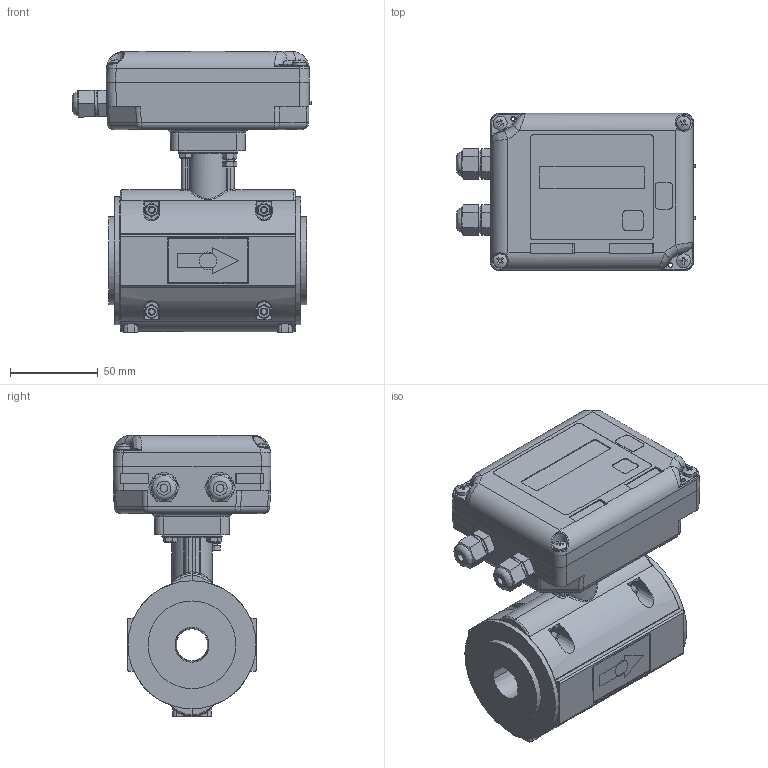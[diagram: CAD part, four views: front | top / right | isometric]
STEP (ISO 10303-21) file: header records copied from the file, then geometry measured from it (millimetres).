
FILE_DESCRIPTION(('STEP AP242'), '1');
FILE_NAME('1_ØÊÑÄ.407212.032-003 Ðàñõîäîìåð-ñ÷¸ò÷èê ýëåêòðîìàãíèòíûé Âçë¸ò èñïîëíåíèå Ëàéò Ì', '', ('UNSPECIFIED'), ('UNSPECIFIED'), 'ASCON STEP Converter 1.6', 'ASCON Math Kernel', '');
FILE_SCHEMA(('AP242_MANAGED_MODEL_BASED_3D_ENGINEERING_MIM_LF { 1 0 10303 442 1 1 4 }'));
Length unit declared in the file: millimetre
Products named in the file (1): 婽挭.407212.032-003.03-003.05
Bounding box: 136.5 x 90 x 160.4 mm (x, y, z)
Volume: 375249.1 mm3; surface area: 228393.4 mm2
Topology: 60 solids, 60 shells, 2465 faces, 5926 edges, 3617 vertices
Faces by surface type: plane 949, cylinder 688, bspline 321, cone 299, torus 162, sphere 46
Full cylindrical faces by diameter (mm): 2 x4, 2.3 x9, 2.4 x2, 3 x4, 3.242 x13, 3.422 x4, 3.6 x2, 4 x44, 4.3 x8, 4.5 x20, 5 x2, 5.5 x8, 6 x2, 7 x18, 7.5 x4, 7.65 x1, 8 x7, 9 x7, 10 x1, 12 x6, 12.2 x2, 12.5 x2, 15 x2, 16.5 x2, 17 x1, 18 x1, 50 x2, 64 x2, 67 x2, 68 x4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
Entity records: 167919 total; most frequent: CARTESIAN_POINT 96650, ORIENTED_EDGE 10746, DIRECTION 9231, EDGE_CURVE 5373, VERTEX_POINT 3573, AXIS2_PLACEMENT_3D 3525, EDGE_LOOP 3156, COLOUR_RGB 2525
